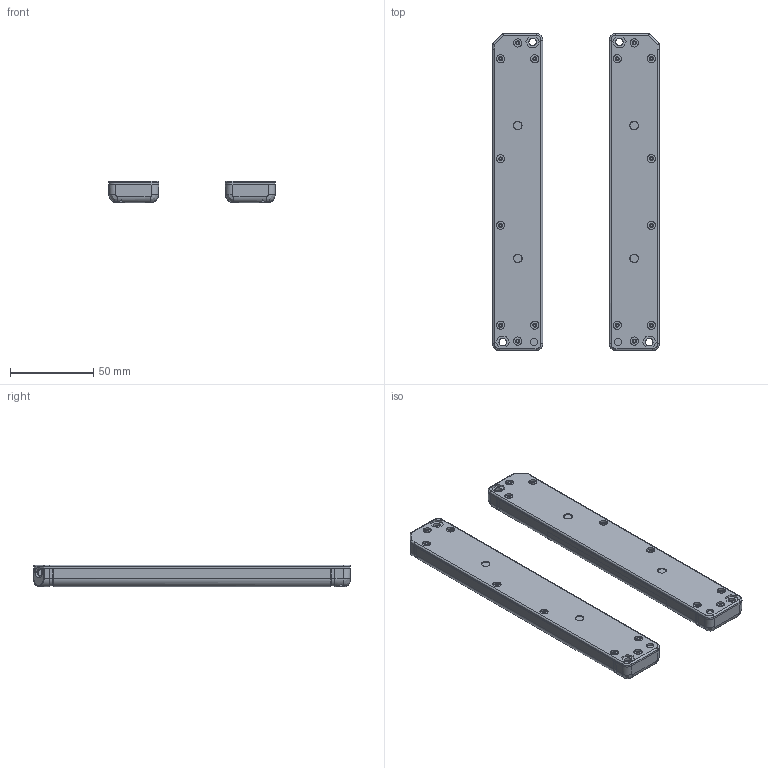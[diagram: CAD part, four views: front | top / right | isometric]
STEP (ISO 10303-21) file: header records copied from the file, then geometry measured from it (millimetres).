
FILE_DESCRIPTION(/* description */ (''),/* implementation_level */ '2;1');
FILE_NAME(/* name */ '0820.stp',/* time_stamp */ '2020-06-20T12:01:04+08:00',/* author */ (''),/* organization */ (''),/* preprocessor_version */ 'ST-DEVELOPER v16',/* originating_system */ 'SIEMENS PLM Software NX 10.0',/* authorisation */ '');
FILE_SCHEMA (('AP203_CONFIGURATION_CONTROLLED_3D_DESIGN_OF_MECHANICAL_PARTS_AND_ASSEMBLIES_MIM_LF { 1 0 10303 403 2 1 2}'));
Products named in the file (1): Admi184CCD9Epmwr
Bounding box: 100.03 x 190.31 x 13 mm (x, y, z)
Volume: 57953.8 mm3; surface area: 74641.4 mm2
Topology: 8 solids, 8 shells, 1747 faces, 4837 edges, 3201 vertices
Faces by surface type: plane 1370, cylinder 199, cone 91, bspline 79, extrusion 7, sphere 1
Full cylindrical faces by diameter (mm): 1.5 x16, 2.1 x13, 2.4 x16, 4.4 x5, 4.5 x6, 4.9 x15, 7.497 x7
Entity records: 57229 total; most frequent: CARTESIAN_POINT 13593, ORIENTED_EDGE 9254, DIRECTION 8483, EDGE_CURVE 4627, VECTOR 3409, LINE 3402, VERTEX_POINT 3100, AXIS2_PLACEMENT_3D 2537
